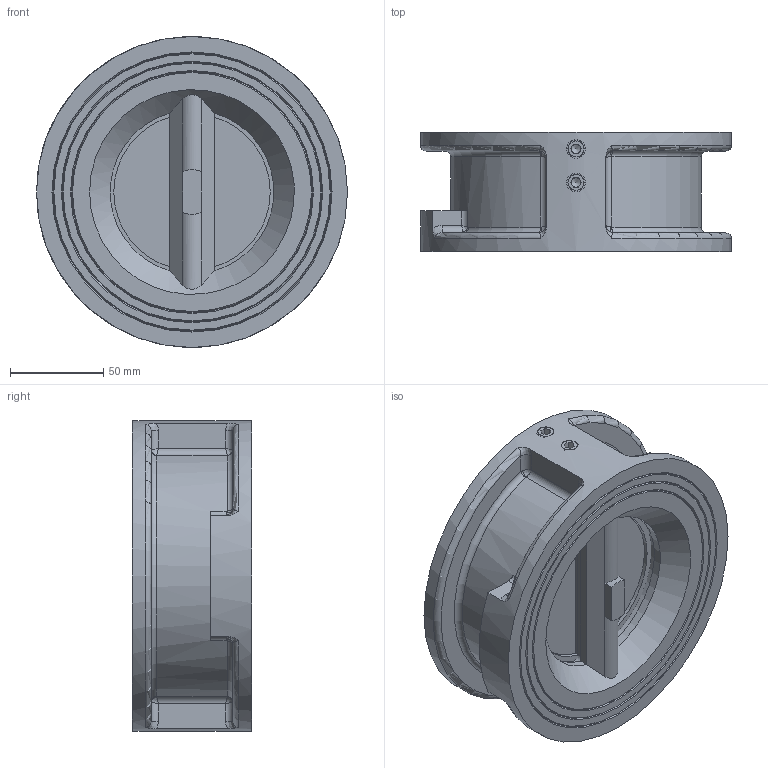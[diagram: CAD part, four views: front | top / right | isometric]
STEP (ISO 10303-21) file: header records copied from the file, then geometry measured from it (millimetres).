
FILE_DESCRIPTION (( 'STEP AP203' ), '1' );
FILE_NAME ('5306 DN100 ×°Åä.STEP', '2025-07-21T00:44:24', ( '' ), ( '' ), 'SwSTEP 2.0', 'SolidWorks 2018', '' );
FILE_SCHEMA (( 'CONFIG_CONTROL_DESIGN' ));
Length unit declared in the file: millimetre
Products named in the file (6): 5306 DN100 概啣; 5306 DN100 概粣; 5306 DN100 境蝶; 5306 DN100 蚾饜; GB╱T 77-2007[内六角平端紧定螺钉M10×10]_M10×10; 5306 DN100 概极
Assembly tree (10 placements, depth 2):
  5306 DN100 蚾饜
    5306 DN100 概极
    5306 DN100 境蝶
    5306 DN100 概粣  x2
    GB╱T 77-2007[内六角平端紧定螺钉M10×10]_M10×10  x4
    5306 DN100 概啣  x2
Bounding box: 167 x 64 x 167 mm (x, y, z)
Volume: 610385.6 mm3; surface area: 152416.2 mm2
Topology: 10 solids, 10 shells, 292 faces, 697 edges, 424 vertices
Faces by surface type: plane 134, cylinder 85, cone 33, bspline 30, torus 10
Full cylindrical faces by diameter (mm): 8 x2, 8.4 x4, 8.5 x4, 9.5 x4, 10 x4, 117 x2, 167 x1
Entity records: 8534 total; most frequent: CARTESIAN_POINT 3581, DIRECTION 850, ORIENTED_EDGE 840, EDGE_CURVE 420, AXIS2_PLACEMENT_3D 342, VERTEX_POINT 279, EDGE_LOOP 265, FACE_OUTER_BOUND 213
